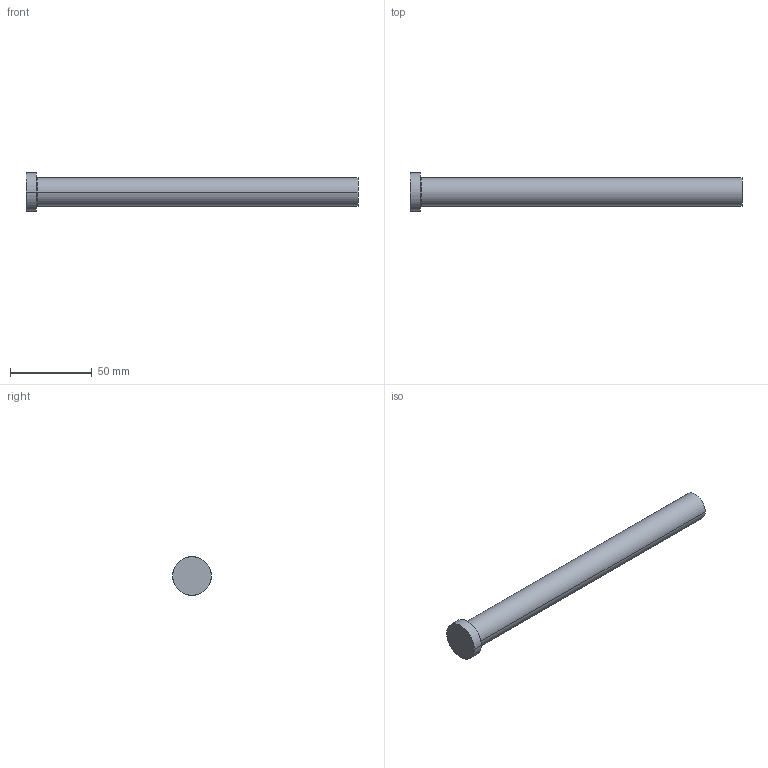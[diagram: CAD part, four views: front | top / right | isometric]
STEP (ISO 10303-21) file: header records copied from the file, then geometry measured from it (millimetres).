
FILE_DESCRIPTION (( 'STEP AP214' ), '1' );
FILE_NAME ('P39-8.STEP', '2020-03-12T12:11:32', ( '' ), ( '' ), 'SwSTEP 2.0', 'SolidWorks 2018', '' );
FILE_SCHEMA (( 'AUTOMOTIVE_DESIGN' ));
Length unit declared in the file: inch
Products named in the file (1): P39-8
Bounding box: 203.2 x 23.81 x 23.81 mm (x, y, z)
Volume: 49910.9 mm3; surface area: 12130.5 mm2
Topology: 1 solids, 1 shells, 13 faces, 24 edges, 14 vertices
Faces by surface type: cone 4, cylinder 4, plane 3, torus 2
Entity records: 366 total; most frequent: DIRECTION 68, CARTESIAN_POINT 52, ORIENTED_EDGE 48, AXIS2_PLACEMENT_3D 30, EDGE_CURVE 24, CIRCLE 16, EDGE_LOOP 14, VERTEX_POINT 14
